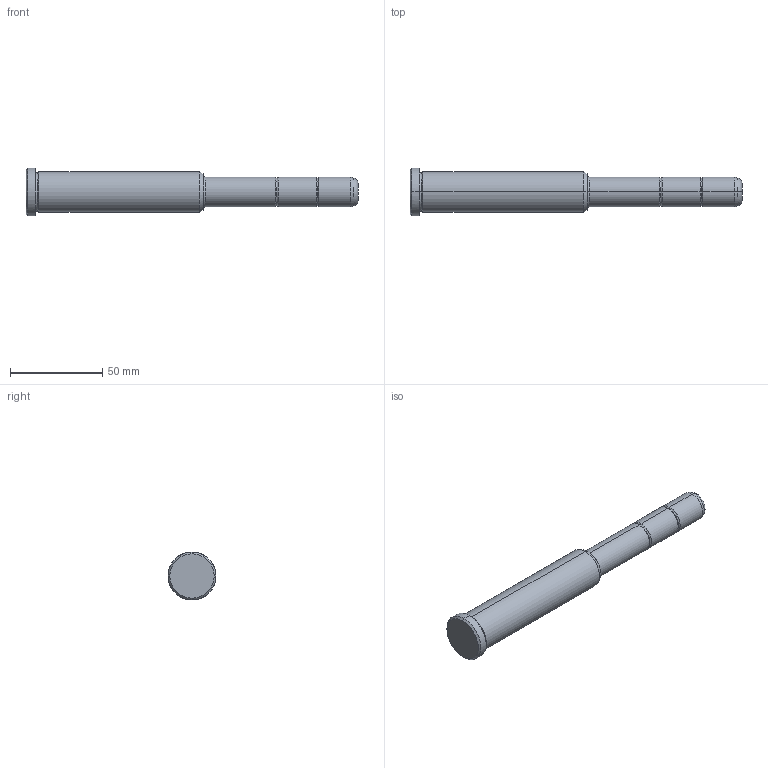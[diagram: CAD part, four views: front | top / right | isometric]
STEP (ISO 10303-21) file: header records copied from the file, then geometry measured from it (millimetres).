
FILE_DESCRIPTION(('CATIA V5 STEP Exchange'),'2;1');
FILE_NAME('C:\Users\Utente\Desktop\IO LAVORO\3D X SITO CF\X SITO\PLASTICA\351\351-16X96X180.stp','2021-08-18T12:43:11+00:00',('none'),('none'),'CATIA Version 5 Release 20 GA (IN-10)','CATIA V5 STEP AP203','none');
FILE_SCHEMA(('CONFIG_CONTROL_DESIGN'));
Length unit declared in the file: millimetre
Products named in the file (1): 351-16X96X180
Bounding box: 180 x 26 x 26 mm (x, y, z)
Volume: 53796.5 mm3; surface area: 11803.4 mm2
Topology: 1 solids, 1 shells, 36 faces, 102 edges, 70 vertices
Faces by surface type: torus 16, cylinder 10, cone 6, plane 4
Entity records: 1292 total; most frequent: CARTESIAN_POINT 321, ORIENTED_EDGE 204, DIRECTION 166, AXIS2_PLACEMENT_3D 115, EDGE_CURVE 102, CIRCLE 78, VERTEX_POINT 70, EDGE_LOOP 38
